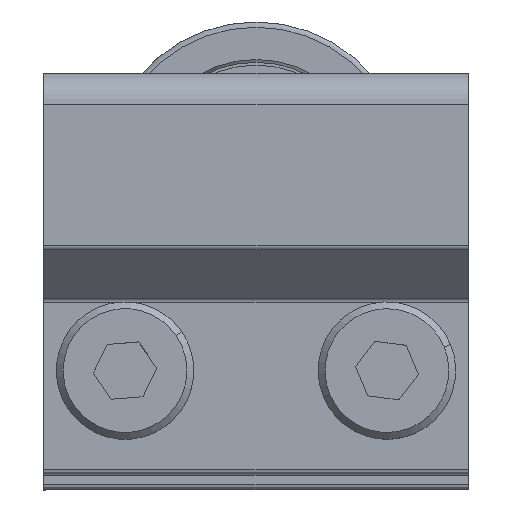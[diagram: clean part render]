
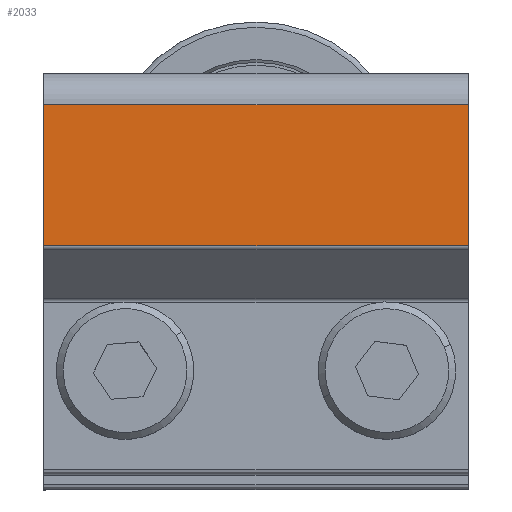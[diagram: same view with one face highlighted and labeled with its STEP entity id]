
A CAD part, top view. The second image highlights one B-rep face of the part: STEP entity #2033.
In plain terms, the highlighted planar face has unit normal (0, 0, 1) as drawn and (1, 0, 0) by its records, which use the part's own axes.
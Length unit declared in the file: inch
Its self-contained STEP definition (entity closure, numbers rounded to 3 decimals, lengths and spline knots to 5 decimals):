
#1523=DIRECTION('',(0.,0.,1.));
#1524=VECTOR('',#1523,1.216);
#1525=CARTESIAN_POINT('',(0.375,0.35921,-0.608));
#1526=LINE('',#1525,#1524);
#1527=DIRECTION('',(0.,-1.,0.));
#1528=VECTOR('',#1527,0.40379);
#1529=CARTESIAN_POINT('',(0.375,0.763,-0.608));
#1530=LINE('',#1529,#1528);
#1608=DIRECTION('',(0.,-1.,0.));
#1609=VECTOR('',#1608,0.40379);
#1610=CARTESIAN_POINT('',(0.375,0.763,0.608));
#1611=LINE('',#1610,#1609);
#1612=DIRECTION('',(0.,0.,-1.));
#1613=VECTOR('',#1612,1.216);
#1614=CARTESIAN_POINT('',(0.375,0.763,0.608));
#1615=LINE('',#1614,#1613);
#1801=CARTESIAN_POINT('',(0.375,0.35921,0.608));
#1803=VERTEX_POINT('',#1801);
#1812=CARTESIAN_POINT('',(0.375,0.35921,-0.608));
#1814=VERTEX_POINT('',#1812);
#1860=CARTESIAN_POINT('',(0.375,0.763,0.608));
#1861=CARTESIAN_POINT('',(0.375,0.763,-0.608));
#1862=VERTEX_POINT('',#1860);
#1863=VERTEX_POINT('',#1861);
#2021=CARTESIAN_POINT('',(0.375,0.763,0.608));
#2022=DIRECTION('',(-1.,0.,0.));
#2023=DIRECTION('',(0.,-1.,0.));
#2024=AXIS2_PLACEMENT_3D('',#2021,#2022,#2023);
#2025=PLANE('',#2024);
#2026=ORIENTED_EDGE('',*,*,#1938,.F.);
#2028=ORIENTED_EDGE('',*,*,#2027,.T.);
#2029=ORIENTED_EDGE('',*,*,#1979,.T.);
#2030=ORIENTED_EDGE('',*,*,#1969,.T.);
#2031=EDGE_LOOP('',(#2026,#2028,#2029,#2030));
#2032=FACE_OUTER_BOUND('',#2031,.F.);
#1938=EDGE_CURVE('',#1862,#1803,#1611,.T.);
#1969=EDGE_CURVE('',#1814,#1803,#1526,.T.);
#1979=EDGE_CURVE('',#1863,#1814,#1530,.T.);
#2027=EDGE_CURVE('',#1862,#1863,#1615,.T.);
#2033=ADVANCED_FACE('',(#2032),#2025,.F.);
